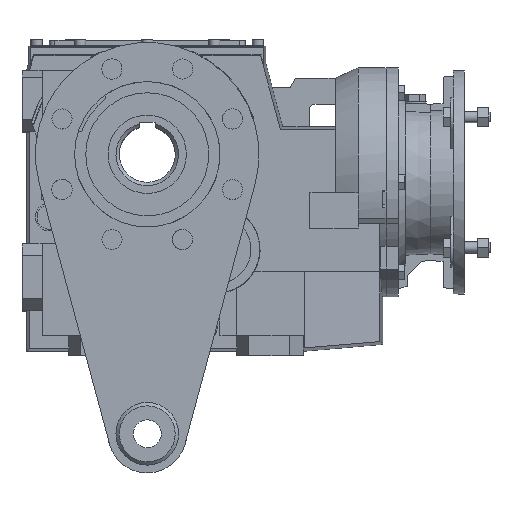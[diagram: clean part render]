
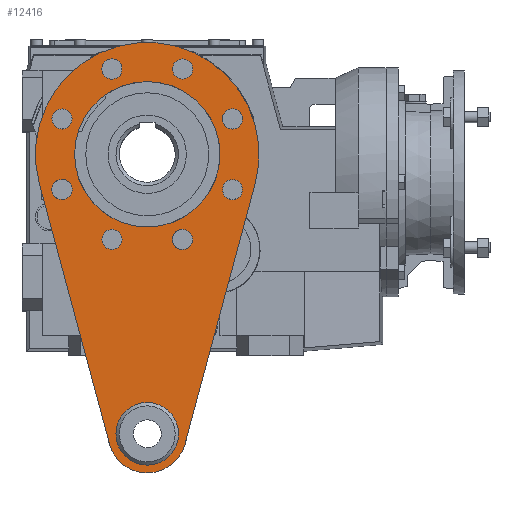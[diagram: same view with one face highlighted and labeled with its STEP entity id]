
A CAD part, top view. The second image highlights one B-rep face of the part: STEP entity #12416.
In plain terms, the highlighted planar face has unit normal (0, 0, 1) as drawn and (0, 0, -1) by its records, which use the part's own axes.
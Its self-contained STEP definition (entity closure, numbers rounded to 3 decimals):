
#1178=LINE('',#19940,#2384);
#1183=LINE('',#19955,#2389);
#2384=VECTOR('',#16208,1000.);
#2389=VECTOR('',#16221,1000.);
#5085=ORIENTED_EDGE('',*,*,#7287,.T.);
#5086=ORIENTED_EDGE('',*,*,#7288,.T.);
#5087=ORIENTED_EDGE('',*,*,#7289,.T.);
#5088=ORIENTED_EDGE('',*,*,#7290,.T.);
#5089=ORIENTED_EDGE('',*,*,#7291,.T.);
#5090=ORIENTED_EDGE('',*,*,#7292,.T.);
#5091=ORIENTED_EDGE('',*,*,#7293,.T.);
#5092=ORIENTED_EDGE('',*,*,#7294,.T.);
#5093=ORIENTED_EDGE('',*,*,#7270,.F.);
#5094=ORIENTED_EDGE('',*,*,#7283,.T.);
#5095=ORIENTED_EDGE('',*,*,#7272,.F.);
#5096=ORIENTED_EDGE('',*,*,#7284,.F.);
#5097=ORIENTED_EDGE('',*,*,#7279,.F.);
#5098=ORIENTED_EDGE('',*,*,#7276,.F.);
#7270=EDGE_CURVE('',#8611,#8611,#9253,.T.);
#7272=EDGE_CURVE('',#8613,#8614,#1178,.T.);
#7276=EDGE_CURVE('',#8614,#8617,#9255,.T.);
#7279=EDGE_CURVE('',#8617,#8619,#1183,.T.);
#7283=EDGE_CURVE('',#8622,#8622,#9258,.T.);
#7284=EDGE_CURVE('',#8619,#8613,#9259,.T.);
#7287=EDGE_CURVE('',#8624,#8624,#9262,.T.);
#7288=EDGE_CURVE('',#8625,#8625,#9263,.T.);
#7289=EDGE_CURVE('',#8626,#8626,#9264,.T.);
#7290=EDGE_CURVE('',#8627,#8627,#9265,.T.);
#7291=EDGE_CURVE('',#8628,#8628,#9266,.T.);
#7292=EDGE_CURVE('',#8629,#8629,#9267,.T.);
#7293=EDGE_CURVE('',#8630,#8630,#9268,.T.);
#7294=EDGE_CURVE('',#8631,#8631,#9269,.T.);
#8611=VERTEX_POINT('',#19935);
#8613=VERTEX_POINT('',#19941);
#8614=VERTEX_POINT('',#19942);
#8617=VERTEX_POINT('',#19950);
#8619=VERTEX_POINT('',#19956);
#8622=VERTEX_POINT('',#19964);
#8624=VERTEX_POINT('',#19973);
#8625=VERTEX_POINT('',#19975);
#8626=VERTEX_POINT('',#19977);
#8627=VERTEX_POINT('',#19979);
#8628=VERTEX_POINT('',#19981);
#8629=VERTEX_POINT('',#19983);
#8630=VERTEX_POINT('',#19985);
#8631=VERTEX_POINT('',#19987);
#9253=CIRCLE('',#13454,28.);
#9255=CIRCLE('',#13459,100.);
#9258=CIRCLE('',#13464,65.);
#9259=CIRCLE('',#13466,35.);
#9262=CIRCLE('',#13471,9.);
#9263=CIRCLE('',#13472,9.);
#9264=CIRCLE('',#13473,9.);
#9265=CIRCLE('',#13474,9.);
#9266=CIRCLE('',#13475,9.);
#9267=CIRCLE('',#13476,9.);
#9268=CIRCLE('',#13477,9.);
#9269=CIRCLE('',#13478,9.);
#10040=EDGE_LOOP('',(#5085));
#10041=EDGE_LOOP('',(#5086));
#10042=EDGE_LOOP('',(#5087));
#10043=EDGE_LOOP('',(#5088));
#10044=EDGE_LOOP('',(#5089));
#10045=EDGE_LOOP('',(#5090));
#10046=EDGE_LOOP('',(#5091));
#10047=EDGE_LOOP('',(#5092));
#10048=EDGE_LOOP('',(#5093));
#10049=EDGE_LOOP('',(#5094));
#10050=EDGE_LOOP('',(#5095,#5096,#5097,#5098));
#11051=FACE_BOUND('',#10040,.T.);
#11052=FACE_BOUND('',#10041,.T.);
#11053=FACE_BOUND('',#10042,.T.);
#11054=FACE_BOUND('',#10043,.T.);
#11055=FACE_BOUND('',#10044,.T.);
#11056=FACE_BOUND('',#10045,.T.);
#11057=FACE_BOUND('',#10046,.T.);
#11058=FACE_BOUND('',#10047,.T.);
#11059=FACE_BOUND('',#10048,.T.);
#11060=FACE_BOUND('',#10049,.T.);
#11061=FACE_BOUND('',#10050,.T.);
#11727=PLANE('',#13470);
#12416=ADVANCED_FACE('',(#11051,#11052,#11053,#11054,#11055,#11056,#11057,
#11058,#11059,#11060,#11061),#11727,.F.);
#13454=AXIS2_PLACEMENT_3D('',#19934,#16200,#16201);
#13459=AXIS2_PLACEMENT_3D('',#19949,#16214,#16215);
#13464=AXIS2_PLACEMENT_3D('',#19963,#16228,#16229);
#13466=AXIS2_PLACEMENT_3D('',#19966,#16232,#16233);
#13470=AXIS2_PLACEMENT_3D('',#19971,#16240,#16241);
#13471=AXIS2_PLACEMENT_3D('',#19972,#16242,#16243);
#13472=AXIS2_PLACEMENT_3D('',#19974,#16244,#16245);
#13473=AXIS2_PLACEMENT_3D('',#19976,#16246,#16247);
#13474=AXIS2_PLACEMENT_3D('',#19978,#16248,#16249);
#13475=AXIS2_PLACEMENT_3D('',#19980,#16250,#16251);
#13476=AXIS2_PLACEMENT_3D('',#19982,#16252,#16253);
#13477=AXIS2_PLACEMENT_3D('',#19984,#16254,#16255);
#13478=AXIS2_PLACEMENT_3D('',#19986,#16256,#16257);
#16200=DIRECTION('',(0.,0.,-1.));
#16201=DIRECTION('',(-1.,0.,0.));
#16208=DIRECTION('',(0.26,0.966,0.));
#16214=DIRECTION('',(0.,0.,1.));
#16215=DIRECTION('',(1.,0.,0.));
#16221=DIRECTION('',(0.26,-0.966,0.));
#16228=DIRECTION('',(0.,0.,1.));
#16229=DIRECTION('',(1.,0.,0.));
#16232=DIRECTION('',(0.,0.,1.));
#16233=DIRECTION('',(1.,0.,0.));
#16240=DIRECTION('',(0.,0.,1.));
#16241=DIRECTION('',(1.,0.,0.));
#16242=DIRECTION('',(0.,0.,1.));
#16243=DIRECTION('',(1.,0.,0.));
#16244=DIRECTION('',(0.,0.,1.));
#16245=DIRECTION('',(1.,0.,0.));
#16246=DIRECTION('',(0.,0.,1.));
#16247=DIRECTION('',(1.,0.,0.));
#16248=DIRECTION('',(0.,0.,1.));
#16249=DIRECTION('',(1.,0.,0.));
#16250=DIRECTION('',(0.,0.,1.));
#16251=DIRECTION('',(1.,0.,0.));
#16252=DIRECTION('',(0.,0.,1.));
#16253=DIRECTION('',(1.,0.,0.));
#16254=DIRECTION('',(0.,0.,1.));
#16255=DIRECTION('',(1.,0.,0.));
#16256=DIRECTION('',(0.,0.,1.));
#16257=DIRECTION('',(1.,0.,0.));
#19934=CARTESIAN_POINT('',(0.,-250.,-3.));
#19935=CARTESIAN_POINT('',(-28.,-250.,-3.));
#19940=CARTESIAN_POINT('',(33.796,-259.1,-3.));
#19941=CARTESIAN_POINT('',(33.796,-259.1,-3.));
#19942=CARTESIAN_POINT('',(96.561,-26.,-3.));
#19949=CARTESIAN_POINT('',(0.,0.,
-3.));
#19950=CARTESIAN_POINT('',(-96.561,-26.,-3.));
#19955=CARTESIAN_POINT('',(-96.561,-26.,-3.));
#19956=CARTESIAN_POINT('',(-33.796,-259.1,-3.));
#19963=CARTESIAN_POINT('',(0.,0.,-3.));
#19964=CARTESIAN_POINT('',(65.,0.,-3.));
#19966=CARTESIAN_POINT('',(0.,-250.,-3.));
#19971=CARTESIAN_POINT('',(0.,0.,
-3.));
#19972=CARTESIAN_POINT('',(31.571,76.22,-3.));
#19973=CARTESIAN_POINT('',(40.571,76.22,-3.));
#19974=CARTESIAN_POINT('',(76.22,31.571,-3.));
#19975=CARTESIAN_POINT('',(85.22,31.571,-3.));
#19976=CARTESIAN_POINT('',(76.22,-31.571,-3.));
#19977=CARTESIAN_POINT('',(85.22,-31.571,-3.));
#19978=CARTESIAN_POINT('',(31.571,-76.22,-3.));
#19979=CARTESIAN_POINT('',(40.571,-76.22,-3.));
#19980=CARTESIAN_POINT('',(-31.571,-76.22,-3.));
#19981=CARTESIAN_POINT('',(-22.571,-76.22,-3.));
#19982=CARTESIAN_POINT('',(-76.22,-31.571,-3.));
#19983=CARTESIAN_POINT('',(-67.22,-31.571,-3.));
#19984=CARTESIAN_POINT('',(-76.22,31.571,-3.));
#19985=CARTESIAN_POINT('',(-67.22,31.571,-3.));
#19986=CARTESIAN_POINT('',(-31.571,76.22,-3.));
#19987=CARTESIAN_POINT('',(-22.571,76.22,-3.));
